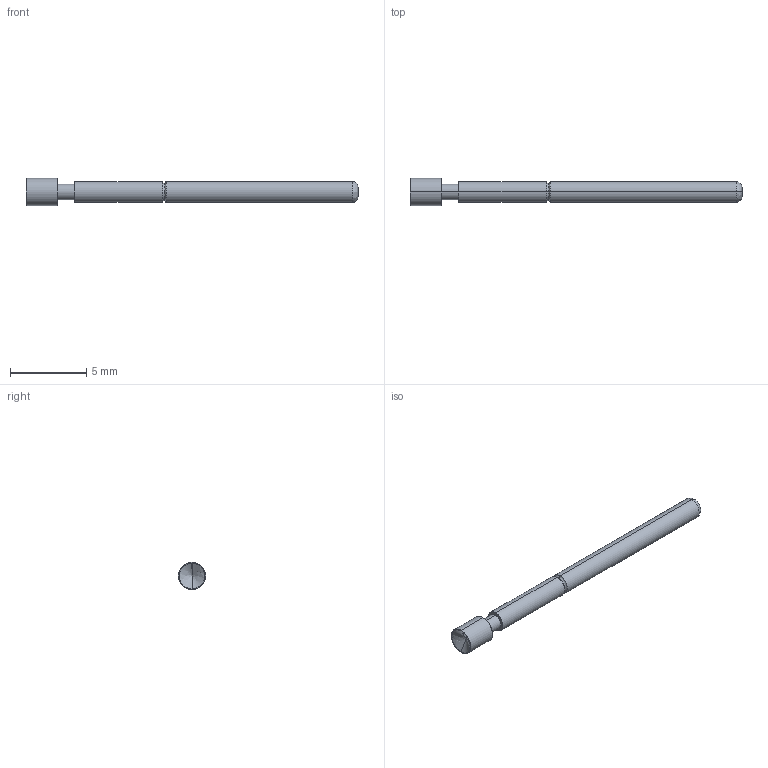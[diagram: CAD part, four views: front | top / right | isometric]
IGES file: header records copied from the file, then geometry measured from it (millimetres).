
Start section: SolidWorks IGES file using analytic representation for surfaces
Global section: file name: O:\PYLON\IGES FILES\P3158\P3158G-1V1S REC'D.IGS; native system: SolidWorks 2015; preprocessor: SolidWorks 2015; author: kgolden; date: 171020.071620; units: inch
Bounding box: 21.74 x 1.78 x 1.78 mm (x, y, z)
Surface area: 106.3 mm2 (no closed solid volume)
Topology: 0 solids, 0 shells, 22 faces, 216 edges, 214 vertices
Faces by surface type: revolution 12, bspline 10
